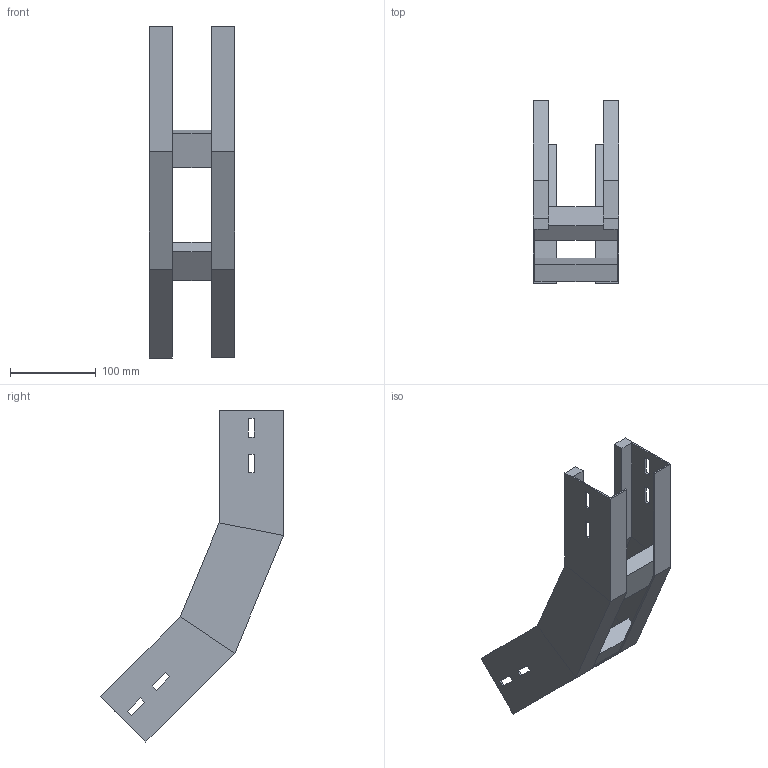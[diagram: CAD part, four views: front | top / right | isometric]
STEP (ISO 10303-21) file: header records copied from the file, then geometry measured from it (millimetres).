
FILE_DESCRIPTION (( 'STEP AP214' ), '1' );
FILE_NAME ('A2X31B3C100XX.step', '2025-03-20T10:08:48', ( '' ), ( '' ), 'SwSTEP 2.0', 'SolidWorks 2023', '' );
FILE_SCHEMA (( 'AUTOMOTIVE_DESIGN' ));
Length unit declared in the file: millimetre
Products named in the file (3): A2X31B3C100XX; TRAVERSINO_100; LONGH.SALITA_45°_H75_R300
Assembly tree (4 placements, depth 2):
  A2X31B3C100XX
    LONGH.SALITA_45°_H75_R300  x2
    TRAVERSINO_100  x2
Bounding box: 100 x 213.56 x 387.55 mm (x, y, z)
Volume: 469315.1 mm3; surface area: 222250.7 mm2
Topology: 4 solids, 4 shells, 96 faces, 232 edges, 144 vertices
Faces by surface type: plane 96
Entity records: 1472 total; most frequent: CARTESIAN_POINT 243, ORIENTED_EDGE 232, DIRECTION 226, VECTOR 116, LINE 116, EDGE_CURVE 116, VERTEX_POINT 72, EDGE_LOOP 56
